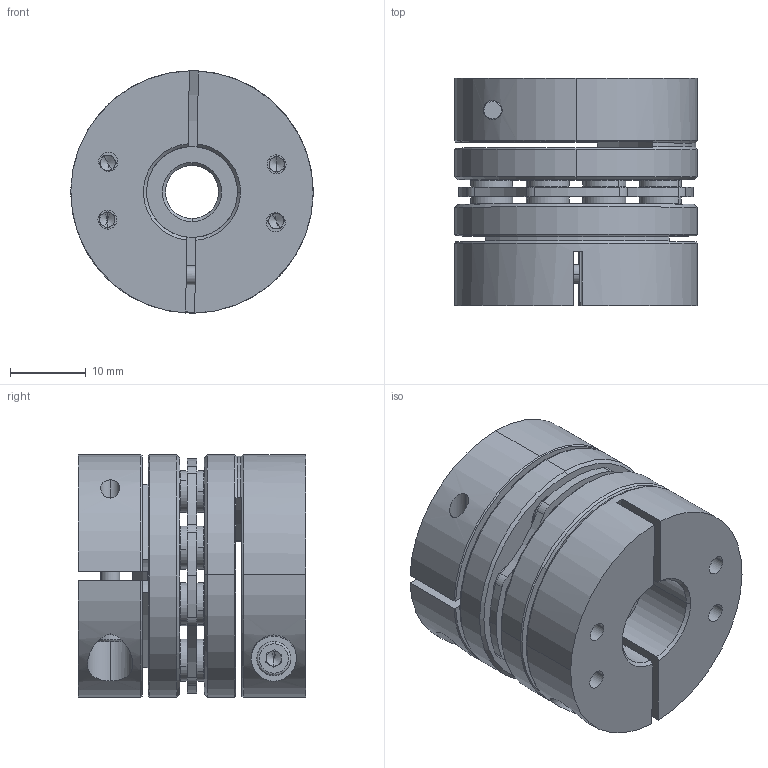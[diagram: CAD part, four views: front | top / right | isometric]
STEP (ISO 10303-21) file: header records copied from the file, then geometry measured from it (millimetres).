
FILE_DESCRIPTION (( 'STEP AP203' ), '1' );
FILE_NAME ('LDG-32-B1-7-12.STEP', '2021-10-28T05:10:40', ( '' ), ( '' ), 'SwSTEP 2.0', 'SolidWorks 2018', '' );
FILE_SCHEMA (( 'CONFIG_CONTROL_DESIGN' ));
Length unit declared in the file: millimetre
Products named in the file (2): LDG-32-B1-7-12; 錨璃5^LDG-32蚾饜芞1
Assembly tree (1 placements, depth 2):
  LDG-32-B1-7-12
    錨璃5^LDG-32蚾饜芞1
Bounding box: 32 x 30 x 32 mm (x, y, z)
Volume: 17917 mm3; surface area: 13219.1 mm2
Topology: 1 solids, 11 shells, 795 faces, 1967 edges, 1216 vertices
Faces by surface type: cylinder 301, plane 244, cone 230, torus 20
Entity records: 24191 total; most frequent: CARTESIAN_POINT 4472, DIRECTION 4465, ORIENTED_EDGE 3878, EDGE_CURVE 1939, AXIS2_PLACEMENT_3D 1819, VERTEX_POINT 1216, CIRCLE 1020, EDGE_LOOP 939
